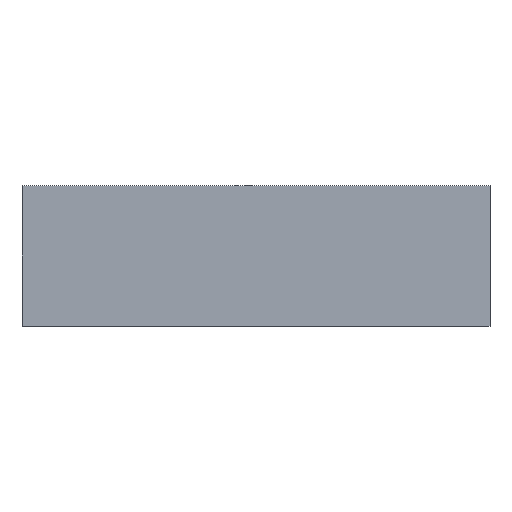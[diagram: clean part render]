
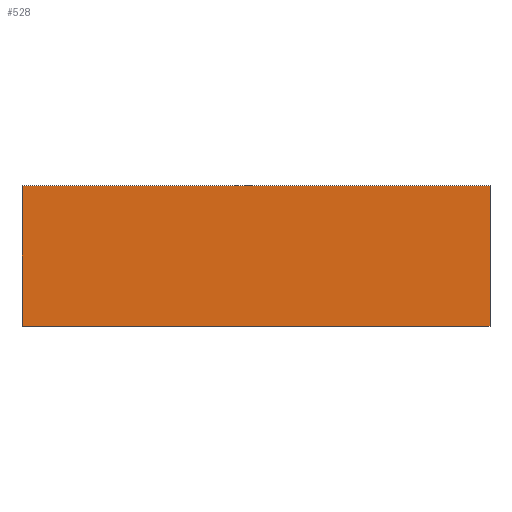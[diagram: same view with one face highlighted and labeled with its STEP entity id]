
A CAD part, left-side view. The second image highlights one B-rep face of the part: STEP entity #528.
In plain terms, the highlighted planar face has unit normal (-1, 0, 0).
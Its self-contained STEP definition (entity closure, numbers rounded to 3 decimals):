
#55 = PLANE('',#56);
#56 = AXIS2_PLACEMENT_3D('',#57,#58,#59);
#57 = CARTESIAN_POINT('',(-15.,15.,0.));
#58 = DIRECTION('',(0.,1.,0.));
#59 = DIRECTION('',(1.,0.,0.));
#83 = PLANE('',#84);
#84 = AXIS2_PLACEMENT_3D('',#85,#86,#87);
#85 = CARTESIAN_POINT('',(-13.,15.,100.));
#86 = DIRECTION('',(0.,0.,-1.));
#87 = DIRECTION('',(0.,1.,0.));
#137 = PLANE('',#138);
#138 = AXIS2_PLACEMENT_3D('',#139,#140,#141);
#139 = CARTESIAN_POINT('',(-13.,15.,0.));
#140 = DIRECTION('',(0.,0.,-1.));
#141 = DIRECTION('',(0.,1.,0.));
#420 = PLANE('',#421);
#421 = AXIS2_PLACEMENT_3D('',#422,#423,#424);
#422 = CARTESIAN_POINT('',(15.,-15.,0.));
#423 = DIRECTION('',(0.,-1.,0.));
#424 = DIRECTION('',(-1.,0.,0.));
#458 = VERTEX_POINT('',#459);
#459 = CARTESIAN_POINT('',(-15.,-15.,100.));
#480 = EDGE_CURVE('',#481,#458,#483,.T.);
#481 = VERTEX_POINT('',#482);
#482 = CARTESIAN_POINT('',(-15.,-15.,0.));
#483 = SURFACE_CURVE('',#484,(#488,#495),.PCURVE_S1.);
#484 = LINE('',#485,#486);
#485 = CARTESIAN_POINT('',(-15.,-15.,0.));
#486 = VECTOR('',#487,1.);
#487 = DIRECTION('',(0.,0.,1.));
#488 = PCURVE('',#420,#489);
#489 = DEFINITIONAL_REPRESENTATION('',(#490),#494);
#490 = LINE('',#491,#492);
#491 = CARTESIAN_POINT('',(30.,0.));
#492 = VECTOR('',#493,1.);
#493 = DIRECTION('',(0.,-1.));
#494 = ( GEOMETRIC_REPRESENTATION_CONTEXT(2) 
PARAMETRIC_REPRESENTATION_CONTEXT() REPRESENTATION_CONTEXT('2D SPACE',''
  ) );
#495 = PCURVE('',#496,#501);
#496 = PLANE('',#497);
#497 = AXIS2_PLACEMENT_3D('',#498,#499,#500);
#498 = CARTESIAN_POINT('',(-15.,-15.,0.));
#499 = DIRECTION('',(-1.,0.,0.));
#500 = DIRECTION('',(0.,1.,0.));
#501 = DEFINITIONAL_REPRESENTATION('',(#502),#506);
#502 = LINE('',#503,#504);
#503 = CARTESIAN_POINT('',(0.,0.));
#504 = VECTOR('',#505,1.);
#505 = DIRECTION('',(0.,-1.));
#506 = ( GEOMETRIC_REPRESENTATION_CONTEXT(2) 
PARAMETRIC_REPRESENTATION_CONTEXT() REPRESENTATION_CONTEXT('2D SPACE',''
  ) );
#528 = ADVANCED_FACE('',(#529),#496,.T.);
#529 = FACE_BOUND('',#530,.T.);
#530 = EDGE_LOOP('',(#531,#532,#555,#578));
#531 = ORIENTED_EDGE('',*,*,#480,.T.);
#532 = ORIENTED_EDGE('',*,*,#533,.T.);
#533 = EDGE_CURVE('',#458,#534,#536,.T.);
#534 = VERTEX_POINT('',#535);
#535 = CARTESIAN_POINT('',(-15.,15.,100.));
#536 = SURFACE_CURVE('',#537,(#541,#548),.PCURVE_S1.);
#537 = LINE('',#538,#539);
#538 = CARTESIAN_POINT('',(-15.,-15.,100.));
#539 = VECTOR('',#540,1.);
#540 = DIRECTION('',(0.,1.,0.));
#541 = PCURVE('',#496,#542);
#542 = DEFINITIONAL_REPRESENTATION('',(#543),#547);
#543 = LINE('',#544,#545);
#544 = CARTESIAN_POINT('',(0.,-100.));
#545 = VECTOR('',#546,1.);
#546 = DIRECTION('',(1.,0.));
#547 = ( GEOMETRIC_REPRESENTATION_CONTEXT(2) 
PARAMETRIC_REPRESENTATION_CONTEXT() REPRESENTATION_CONTEXT('2D SPACE',''
  ) );
#548 = PCURVE('',#83,#549);
#549 = DEFINITIONAL_REPRESENTATION('',(#550),#554);
#550 = LINE('',#551,#552);
#551 = CARTESIAN_POINT('',(-30.,-2.));
#552 = VECTOR('',#553,1.);
#553 = DIRECTION('',(1.,0.));
#554 = ( GEOMETRIC_REPRESENTATION_CONTEXT(2) 
PARAMETRIC_REPRESENTATION_CONTEXT() REPRESENTATION_CONTEXT('2D SPACE',''
  ) );
#555 = ORIENTED_EDGE('',*,*,#556,.F.);
#556 = EDGE_CURVE('',#557,#534,#559,.T.);
#557 = VERTEX_POINT('',#558);
#558 = CARTESIAN_POINT('',(-15.,15.,0.));
#559 = SURFACE_CURVE('',#560,(#564,#571),.PCURVE_S1.);
#560 = LINE('',#561,#562);
#561 = CARTESIAN_POINT('',(-15.,15.,0.));
#562 = VECTOR('',#563,1.);
#563 = DIRECTION('',(0.,0.,1.));
#564 = PCURVE('',#496,#565);
#565 = DEFINITIONAL_REPRESENTATION('',(#566),#570);
#566 = LINE('',#567,#568);
#567 = CARTESIAN_POINT('',(30.,0.));
#568 = VECTOR('',#569,1.);
#569 = DIRECTION('',(0.,-1.));
#570 = ( GEOMETRIC_REPRESENTATION_CONTEXT(2) 
PARAMETRIC_REPRESENTATION_CONTEXT() REPRESENTATION_CONTEXT('2D SPACE',''
  ) );
#571 = PCURVE('',#55,#572);
#572 = DEFINITIONAL_REPRESENTATION('',(#573),#577);
#573 = LINE('',#574,#575);
#574 = CARTESIAN_POINT('',(0.,0.));
#575 = VECTOR('',#576,1.);
#576 = DIRECTION('',(0.,-1.));
#577 = ( GEOMETRIC_REPRESENTATION_CONTEXT(2) 
PARAMETRIC_REPRESENTATION_CONTEXT() REPRESENTATION_CONTEXT('2D SPACE',''
  ) );
#578 = ORIENTED_EDGE('',*,*,#579,.F.);
#579 = EDGE_CURVE('',#481,#557,#580,.T.);
#580 = SURFACE_CURVE('',#581,(#585,#592),.PCURVE_S1.);
#581 = LINE('',#582,#583);
#582 = CARTESIAN_POINT('',(-15.,-15.,0.));
#583 = VECTOR('',#584,1.);
#584 = DIRECTION('',(0.,1.,0.));
#585 = PCURVE('',#496,#586);
#586 = DEFINITIONAL_REPRESENTATION('',(#587),#591);
#587 = LINE('',#588,#589);
#588 = CARTESIAN_POINT('',(0.,0.));
#589 = VECTOR('',#590,1.);
#590 = DIRECTION('',(1.,0.));
#591 = ( GEOMETRIC_REPRESENTATION_CONTEXT(2) 
PARAMETRIC_REPRESENTATION_CONTEXT() REPRESENTATION_CONTEXT('2D SPACE',''
  ) );
#592 = PCURVE('',#137,#593);
#593 = DEFINITIONAL_REPRESENTATION('',(#594),#598);
#594 = LINE('',#595,#596);
#595 = CARTESIAN_POINT('',(-30.,-2.));
#596 = VECTOR('',#597,1.);
#597 = DIRECTION('',(1.,0.));
#598 = ( GEOMETRIC_REPRESENTATION_CONTEXT(2) 
PARAMETRIC_REPRESENTATION_CONTEXT() REPRESENTATION_CONTEXT('2D SPACE',''
  ) );
